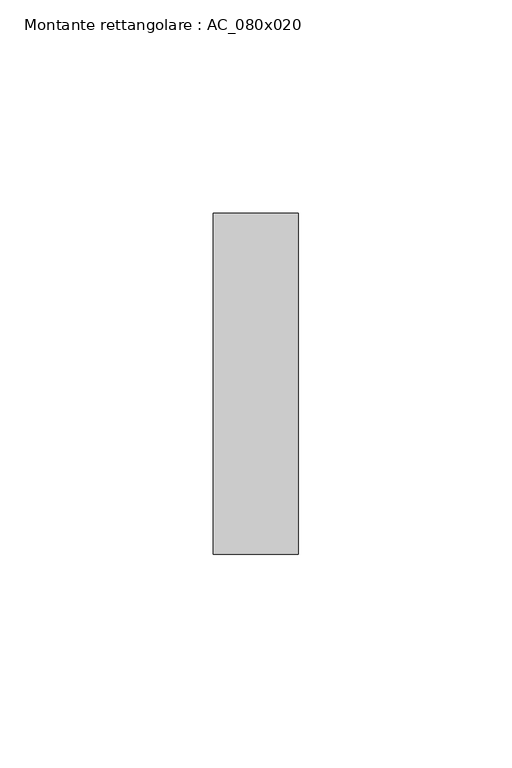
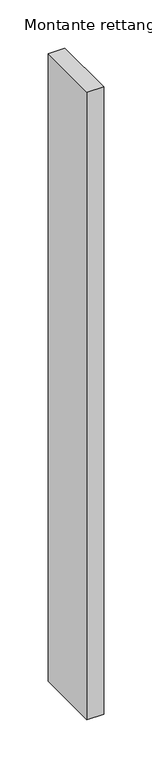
"""IFC4 building model written with IfcOpenShell, lengths in millimetres: member geometry, Montante rettangolare : AC_080x020."""

from ifc_helpers import new_model, si_unit, frame, origin, place, context, project, spatial, polyline, outline, extrude, source, transform, mapped, element, save


def montante_rettangolare_ac_080x020_0cad4226(model_context):
    return source(origin(), model_context, "Body", "SweptSolid", [
        extrude(outline(polyline([(0.0, 40.0), (0.0, -40.0), (-20.0, -40.0), (-20.0, 40.0), (0.0, 40.0)])), frame((0.0, 0.0, -793.6633741), z_axis=(0.0, 0.0, 1.0), x_axis=(1.0, 0.0, 0.0)), (0.0, 0.0, 1.0), 793.6633741),
    ])


if __name__ == "__main__":
    model = new_model("IFC4")
    model_context = context("Model", 3, world=origin())
    ifc_project = project(units=[si_unit("LENGTHUNIT", "METRE", prefix="MILLI")], contexts=[model_context])
    site = spatial("IfcSite", under=ifc_project)
    building = spatial("IfcBuilding", under=site)
    placement = place(None, origin())
    montante_rettangolare_ac_080x020_shape = montante_rettangolare_ac_080x020_0cad4226(model_context)
    element("IfcMember", 1, ObjectType="Montante rettangolare : AC_080x020", at=placement, inside=building, context=model_context, shape_type="MappedRepresentation", body=[
        mapped(montante_rettangolare_ac_080x020_shape, transform((0.0, 0.0, 0.0), x_axis=(1.0, 0.0, 0.0), y_axis=(0.0, 1.0, 0.0), z_axis=(0.0, 0.0, 1.0))),
    ])
    save(model, "model.ifc")
